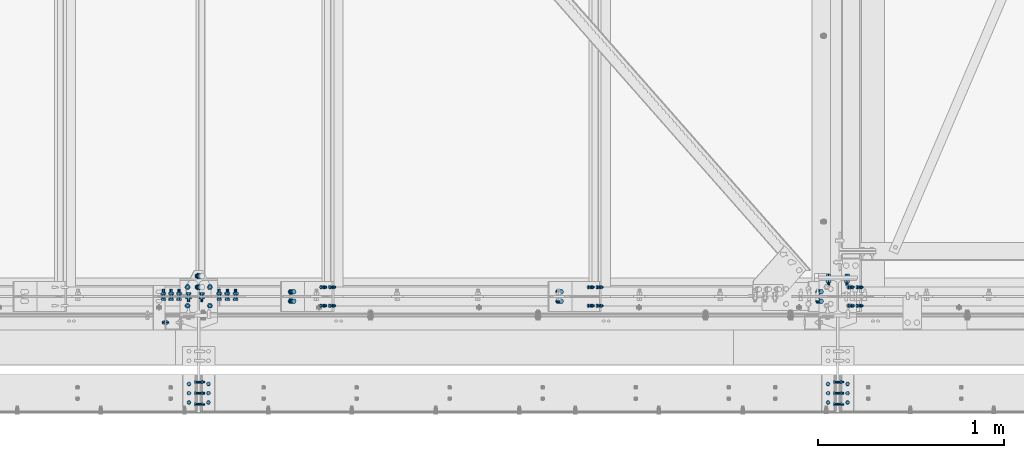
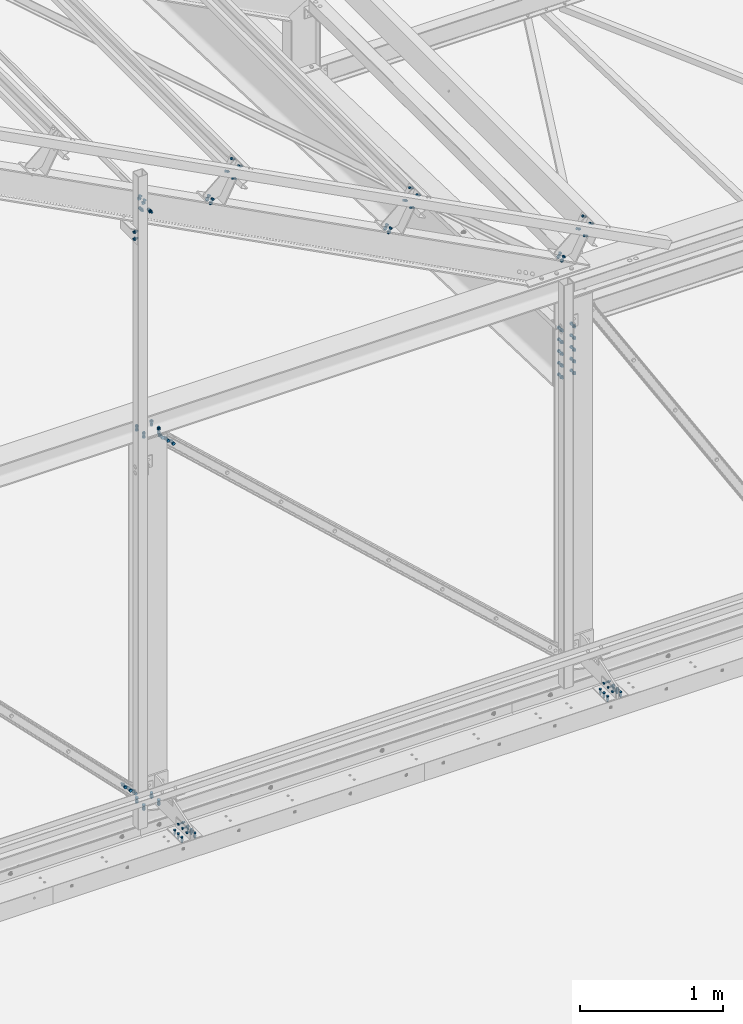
# One storey, part 159 of 362: 21 mechanical fasteners.
"""IFC2X3 building model written with IfcOpenShell, lengths in millimetres."""

from ifc_helpers import new_model, si_unit, frame, frame_2d, origin_with_axes, origin_2d_with_axis, place, context, subcontext, project, spatial, polyline, circle_curve, parameter, trimmed, segment, composite_curve, circle, outline, extrude, source, transform, mapped, material, type_object, element, save


model = new_model("IFC2X3")

# Units and contexts
model_context = context("Model", 3, precision=1e-05, world=origin_with_axes())
body_context = subcontext(model_context, "Body", "Model", "MODEL_VIEW")
ifc_project = project(units=[si_unit("LENGTHUNIT", "METRE", prefix="MILLI"), si_unit("AREAUNIT", "SQUARE_METRE"), si_unit("VOLUMEUNIT", "CUBIC_METRE"), si_unit("MASSUNIT", "GRAM", prefix="KILO"), si_unit("TIMEUNIT", "SECOND"), si_unit("PLANEANGLEUNIT", "RADIAN"), si_unit("SOLIDANGLEUNIT", "STERADIAN"), si_unit("THERMODYNAMICTEMPERATUREUNIT", "DEGREE_CELSIUS"), si_unit("LUMINOUSINTENSITYUNIT", "LUMEN")], contexts=[model_context])

# Site, building, storey
site_placement = place(None, origin_with_axes())
site = spatial("IfcSite", under=ifc_project, at=site_placement, Name="Undefined", CompositionType="ELEMENT")
building_placement = place(site_placement, origin_with_axes())
building = spatial("IfcBuilding", under=site, at=building_placement, Name="Undefined", CompositionType="ELEMENT")
storey_placement = place(building_placement, origin_with_axes())
storey = spatial("IfcBuildingStorey", under=building, at=storey_placement, Name="Undefined", CompositionType="ELEMENT", Elevation=0.0)

# Mechanical fasteners
ifc_material_1 = material(Name="8.8-SB-ZINGUE")
mechanical_fastener_type = type_object("IfcMechanicalFastenerType", Name="Bolt assembly")
shared_shape_1 = source(origin_with_axes(), body_context, "Body", "SweptSolid", [
    extrude(circle(Radius=7.0, at=origin_2d_with_axis()), frame((0.0, -0.100011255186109, 0.0), z_axis=(0.0, 1.0, 0.0), x_axis=(1.0, 0.0, 0.0)), (0.0, 0.0, 1.0), 3.1),
    extrude(circle(Radius=7.0, at=origin_2d_with_axis()), frame((0.0, -9.9, 0.0), z_axis=(0.0, 1.0, 0.0), x_axis=(1.0, 0.0, 0.0)), (0.0, 0.0, 1.0), 10.0),
    extrude(outline(polyline([(10.39230484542, 0.0), (5.19615242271, 9.00000000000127), (-5.19615242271, 9.00000000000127), (-10.39230484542, 0.0), (-5.19615242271, -9.00000000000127), (5.19615242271, -9.00000000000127), (10.39230484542, 0.0)])), frame((0.0, -17.92, 0.0), z_axis=(0.0, 1.0, 0.0), x_axis=(1.0, 0.0, 0.0)), (0.0, 0.0, 1.0), 7.92),
    extrude(circle(Radius=6.0, at=origin_2d_with_axis()), frame((0.0, -10.0000010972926, 0.0), z_axis=(0.0, 1.0, 0.0), x_axis=(1.0, 0.0, 0.0)), (0.0, 0.0, 1.0), 30.0),
    extrude(outline(polyline([(11.5008173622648, 0.0), (5.7504086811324, 9.96000000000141), (-5.7504086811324, 9.96000000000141), (-11.5008173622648, 0.0), (-5.7504086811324, -9.96000000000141), (5.7504086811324, -9.96000000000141), (11.5008173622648, 0.0)])), frame((0.0, 3.00000067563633, 0.0), z_axis=(0.0, 1.0, 0.0), x_axis=(1.0, 0.0, 0.0)), (0.0, 0.0, 1.0), 7.92),
])
mechanical_fastener_1_placement = place(storey_placement, frame((19619.8617049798, 49.9999403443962, 8812.09852695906), z_axis=(0.0, 1.0, 0.0), x_axis=(0.463528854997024, 6.99999093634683e-09, 0.886081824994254)))
element("IfcMechanicalFastener", 1, at=mechanical_fastener_1_placement, inside=storey, type_object=mechanical_fastener_type, material=ifc_material_1, Name="Bolt assembly", NominalDiameter=12.0, NominalLength=30.0, context=body_context, shape_type="MappedRepresentation", body=[
    mapped(shared_shape_1, transform((0.0, 0.0, 0.0))),
    mapped(shared_shape_1, transform((102.00000000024, -2.51020537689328e-10, 0.0))),
])
mechanical_fastener_2_placement = place(storey_placement, frame((19620.3252333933, -49.9999403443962, 8812.98460901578), z_axis=(0.0, 1.0, 0.0), x_axis=(0.463528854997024, 6.99999093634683e-09, 0.886081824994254)))
element("IfcMechanicalFastener", 2, at=mechanical_fastener_2_placement, inside=storey, type_object=mechanical_fastener_type, material=ifc_material_1, Name="Bolt assembly", NominalDiameter=12.0, NominalLength=30.0, context=body_context, shape_type="MappedRepresentation", body=[
    mapped(shared_shape_1, transform((0.0, 0.0, 0.0))),
    mapped(shared_shape_1, transform((99.9999999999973, -1.63709046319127e-11, 7.73070496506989e-12))),
])
shared_shape_2 = source(origin_with_axes(), body_context, "Body", "SweptSolid", [
    extrude(circle(Radius=7.0, at=origin_2d_with_axis()), frame((0.0, -7.5, 0.0), z_axis=(0.0, 1.0, 0.0), x_axis=(1.0, 0.0, 0.0)), (0.0, 0.0, 1.0), 15.0),
    extrude(circle(Radius=7.0, at=origin_2d_with_axis()), frame((0.0, -15.4, 0.0), z_axis=(0.0, 1.0, 0.0), x_axis=(1.0, 0.0, 0.0)), (0.0, 0.0, 1.0), 8.0),
    extrude(circle(Radius=7.0, at=origin_2d_with_axis()), frame((0.0, 7.39216762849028, 0.0), z_axis=(0.0, 1.0, 0.0), x_axis=(1.0, 0.0, 0.0)), (0.0, 0.0, 1.0), 8.1),
    extrude(outline(polyline([(10.39230484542, 0.0), (5.19615242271, 9.00000000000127), (-5.19615242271, 9.00000000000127), (-10.39230484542, 0.0), (-5.19615242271, -9.00000000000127), (5.19615242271, -9.00000000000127), (10.39230484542, 0.0)])), frame((0.0, -23.42, 0.0), z_axis=(0.0, 1.0, 0.0), x_axis=(1.0, 0.0, 0.0)), (0.0, 0.0, 1.0), 7.92),
    extrude(circle(Radius=6.0, at=origin_2d_with_axis()), frame((0.0, -15.5, 0.0), z_axis=(0.0, 1.0, 0.0), x_axis=(1.0, 0.0, 0.0)), (0.0, 0.0, 1.0), 50.0),
    extrude(outline(polyline([(11.5008173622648, 0.0), (5.7504086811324, 9.96000000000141), (-5.7504086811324, 9.96000000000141), (-11.5008173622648, 0.0), (-5.7504086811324, -9.96000000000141), (5.7504086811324, -9.96000000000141), (11.5008173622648, 0.0)])), frame((0.0, 15.4921676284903, 0.0), z_axis=(0.0, 1.0, 0.0), x_axis=(1.0, 0.0, 0.0)), (0.0, 0.0, 1.0), 7.92),
])
for number, where, z_axis, x_axis, name in (
    (3, (19550.0, -520.0, 5274.99824538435), (0.0, -1.0, 0.0), (0.0, 0.0, -1.0), "Bolt assembly"),
    (4, (16114.9985840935, -520.0, 5274.99824538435), (0.0, -1.0, 0.0), (0.0, 0.0, -1.0), "Bolt assembly"),
):
    element("IfcMechanicalFastener", number, at=place(storey_placement, frame(where, z_axis=z_axis, x_axis=x_axis)), inside=storey, type_object=mechanical_fastener_type, material=ifc_material_1, Name=name, NominalDiameter=12.0, NominalLength=50.0, context=body_context, shape_type="MappedRepresentation", body=[
        mapped(shared_shape_2, transform((0.0, 0.0, -60.0))),
        mapped(shared_shape_2, transform((0.0, 0.0, 0.0))),
        mapped(shared_shape_2, transform((0.0, 0.0, 60.0))),
    ])
shared_shape_3 = source(origin_with_axes(), body_context, "Body", "SweptSolid", [
    extrude(circle(Radius=7.0, at=origin_2d_with_axis()), frame((0.0, -0.100011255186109, 0.0), z_axis=(0.0, 1.0, 0.0), x_axis=(1.0, 0.0, 0.0)), (0.0, 0.0, 1.0), 8.6),
    extrude(circle(Radius=7.0, at=origin_2d_with_axis()), frame((0.0, -7.9, 0.0), z_axis=(0.0, 1.0, 0.0), x_axis=(1.0, 0.0, 0.0)), (0.0, 0.0, 1.0), 8.0),
    extrude(outline(polyline([(10.39230484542, 0.0), (5.19615242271, 9.00000000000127), (-5.19615242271, 9.00000000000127), (-10.39230484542, 0.0), (-5.19615242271, -9.00000000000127), (5.19615242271, -9.00000000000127), (10.39230484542, 0.0)])), frame((0.0, -15.92, 0.0), z_axis=(0.0, 1.0, 0.0), x_axis=(1.0, 0.0, 0.0)), (0.0, 0.0, 1.0), 7.92),
    extrude(circle(Radius=6.0, at=origin_2d_with_axis()), frame((0.0, -8.0, 0.0), z_axis=(0.0, 1.0, 0.0), x_axis=(1.0, 0.0, 0.0)), (0.0, 0.0, 1.0), 40.0),
    extrude(outline(polyline([(11.5008173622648, 0.0), (5.7504086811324, 9.96000000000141), (-5.7504086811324, 9.96000000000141), (-11.5008173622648, 0.0), (-5.7504086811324, -9.96000000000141), (5.7504086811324, -9.96000000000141), (11.5008173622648, 0.0)])), frame((0.0, 8.49999994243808, 0.0), z_axis=(0.0, 1.0, 0.0), x_axis=(1.0, 0.0, 0.0)), (0.0, 0.0, 1.0), 7.92),
])
for number, where, z_axis, x_axis, name in (
    (5, (19602.4921676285, -520.0, 5229.99824532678), (0.0, -1.0, 0.0), (-1.0, 0.0, 0.0), "Bolt assembly"),
    (6, (19497.5, -520.0, 5229.99824532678), (0.0, 1.0, 0.0), (1.0, 0.0, 0.0), "Bolt assembly"),
    (7, (16062.4985840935, -520.0, 5229.99824532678), (0.0, 1.0, 0.0), (1.0, 0.0, 0.0), "Bolt assembly"),
    (8, (16167.490751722, -520.0, 5229.99824532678), (0.0, -1.0, 0.0), (-1.0, 0.0, 0.0), "Bolt assembly"),
):
    element("IfcMechanicalFastener", number, at=place(storey_placement, frame(where, z_axis=z_axis, x_axis=x_axis)), inside=storey, type_object=mechanical_fastener_type, material=ifc_material_1, Name=name, NominalDiameter=12.0, NominalLength=40.0, context=body_context, shape_type="MappedRepresentation", body=[
        mapped(shared_shape_3, transform((0.0, 0.0, -50.0))),
        mapped(shared_shape_3, transform((0.0, 0.0, 0.0))),
        mapped(shared_shape_3, transform((0.0, 0.0, 50.0))),
    ])
shared_shape_4 = source(origin_with_axes(), body_context, "Body", "SweptSolid", [
    extrude(circle(Radius=7.0, at=origin_2d_with_axis()), frame((0.0, -0.100011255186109, 0.0), z_axis=(0.0, 1.0, 0.0), x_axis=(1.0, 0.0, 0.0)), (0.0, 0.0, 1.0), 4.1),
    extrude(outline(composite_curve([segment(polyline([(-10.5, 7.0), (10.5, 7.0)]), True, "CONTINUOUS"), segment(trimmed(circle_curve(frame_2d((10.5, 0.0), x_axis=(0.0, 1.0)), 7.0), [parameter(0.0)], [parameter(3.14159265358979)], False, "PARAMETER"), True, "CONTINUOUS"), segment(polyline([(10.5, -7.0), (-10.5, -7.0)]), True, "CONTINUOUS"), segment(trimmed(circle_curve(frame_2d((-10.5, 0.0), x_axis=(0.0, -1.0)), 7.0), [parameter(0.0)], [parameter(3.14159265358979)], False, "PARAMETER"), True, "DISCONTINUOUS")], self_intersect=False)), frame((0.0, -4.90000000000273, 0.0), z_axis=(0.0, 1.0, 0.0), x_axis=(1.0, 0.0, 0.0)), (0.0, 0.0, 1.0), 5.0),
    extrude(outline(polyline([(10.39230484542, 0.0), (5.19615242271, 9.00000000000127), (-5.19615242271, 9.00000000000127), (-10.39230484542, 0.0), (-5.19615242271, -9.00000000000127), (5.19615242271, -9.00000000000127), (10.39230484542, 0.0)])), frame((0.0, -16.8799999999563, 0.0), z_axis=(0.0, 1.0, 0.0), x_axis=(1.0, 0.0, 0.0)), (0.0, 0.0, 1.0), 7.92),
    extrude(circle(Radius=6.0, at=origin_2d_with_axis()), frame((0.0, -8.95999999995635, 0.0), z_axis=(0.0, 1.0, 0.0), x_axis=(1.0, 0.0, 0.0)), (0.0, 0.0, 1.0), 30.0),
    extrude(circle(Radius=10.8, at=origin_2d_with_axis()), frame((0.0, -8.95999999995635, 0.0), z_axis=(0.0, 1.0, 0.0), x_axis=(1.0, 0.0, 0.0)), (0.0, 0.0, 1.0), 3.96),
    extrude(outline(polyline([(11.5008173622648, 0.0), (5.7504086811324, 9.96000000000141), (-5.7504086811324, 9.96000000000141), (-11.5008173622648, 0.0), (-5.7504086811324, -9.96000000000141), (5.7504086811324, -9.96000000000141), (11.5008173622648, 0.0)])), frame((0.0, 4.00000005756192, 0.0), z_axis=(0.0, 1.0, 0.0), x_axis=(1.0, 0.0, 0.0)), (0.0, 0.0, 1.0), 7.92),
])
mechanical_fastener_3_placement = place(storey_placement, frame((15934.9998811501, -139.999999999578, 10133.0031228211), z_axis=(0.0, 1.0, 0.0), x_axis=(0.0, 0.0, 1.0)))
element("IfcMechanicalFastener", 9, at=mechanical_fastener_3_placement, inside=storey, type_object=mechanical_fastener_type, material=ifc_material_1, Name="Bolt assembly", NominalDiameter=12.0, NominalLength=30.0, context=body_context, shape_type="MappedRepresentation", body=[
    mapped(shared_shape_4, transform((0.0, 0.0, 0.0))),
    mapped(shared_shape_4, transform((60.0, 0.0, 0.0))),
])
shared_shape_5 = source(origin_with_axes(), body_context, "Body", "SweptSolid", [
    extrude(circle(Radius=9.0, at=origin_2d_with_axis()), frame((0.0, -10.9000000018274, 0.0), z_axis=(0.0, 1.0, 0.0), x_axis=(1.0, 0.0, 0.0)), (0.0, 0.0, 1.0), 6.0),
    extrude(circle(Radius=9.0, at=origin_2d_with_axis()), frame((0.0, 4.9000000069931, 0.0), z_axis=(0.0, 1.0, 0.0), x_axis=(1.0, 0.0, 0.0)), (0.0, 0.0, 1.0), 6.1),
    extrude(circle(Radius=9.0, at=origin_2d_with_axis()), frame((0.0, -3.99999923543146, 0.0), z_axis=(0.0, 1.0, 0.0), x_axis=(1.0, 0.0, 0.0)), (0.0, 0.0, 1.0), 8.0),
    extrude(outline(polyline([(13.85640646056, 0.0), (6.92820323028, 12.0000000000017), (-6.92820323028, 12.0000000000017), (-13.85640646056, 0.0), (-6.92820323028, -12.0000000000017), (6.92820323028, -12.0000000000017), (13.85640646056, 0.0)])), frame((0.0, -21.5600000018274, 0.0), z_axis=(0.0, 1.0, 0.0), x_axis=(1.0, 0.0, 0.0)), (0.0, 0.0, 1.0), 10.56),
    extrude(circle(Radius=8.0, at=origin_2d_with_axis()), frame((0.0, -11.0000000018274, 0.0), z_axis=(0.0, 1.0, 0.0), x_axis=(1.0, 0.0, 0.0)), (0.0, 0.0, 1.0), 50.0),
    extrude(outline(polyline([(15.3344231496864, 0.0), (7.6672115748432, 13.2800000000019), (-7.6672115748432, 13.2800000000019), (-15.3344231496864, 0.0), (-7.6672115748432, -13.2800000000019), (7.6672115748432, -13.2800000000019), (15.3344231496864, 0.0)])), frame((0.0, 11.0000000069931, 0.0), z_axis=(0.0, 1.0, 0.0), x_axis=(1.0, 0.0, 0.0)), (0.0, 0.0, 1.0), 10.56),
])
for number, where, z_axis, x_axis, name in (
    (10, (16225.2326805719, 0.0, 8258.27065316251), (0.67819104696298, 0.0, 0.73488563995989), (0.73488563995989, 0.0, -0.67819104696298), "Bolt assembly"),
    (11, (16009.2596121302, 0.0, 5296.6583257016), (-0.711050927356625, 0.0, -0.703140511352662), (-0.703140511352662, 0.0, 0.711050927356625), "Bolt assembly"),
):
    element("IfcMechanicalFastener", number, at=place(storey_placement, frame(where, z_axis=z_axis, x_axis=x_axis)), inside=storey, type_object=mechanical_fastener_type, material=ifc_material_1, Name=name, NominalDiameter=16.0, NominalLength=50.0, context=body_context, shape_type="MappedRepresentation", body=[
        mapped(shared_shape_5, transform((0.0, 0.0, 0.0))),
        mapped(shared_shape_5, transform((60.0, 0.0, 0.0))),
        mapped(shared_shape_5, transform((120.0, 0.0, 0.0))),
    ])
shared_shape_6 = source(origin_with_axes(), body_context, "Body", "SweptSolid", [
    extrude(circle(Radius=9.0, at=origin_2d_with_axis()), frame((0.0, -0.100011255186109, 0.0), z_axis=(0.0, 1.0, 0.0), x_axis=(1.0, 0.0, 0.0)), (0.0, 0.0, 1.0), 10.1),
    extrude(circle(Radius=9.0, at=origin_2d_with_axis()), frame((0.0, -14.899999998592, 0.0), z_axis=(0.0, 1.0, 0.0), x_axis=(1.0, 0.0, 0.0)), (0.0, 0.0, 1.0), 15.0),
    extrude(outline(polyline([(13.85640646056, 0.0), (6.92820323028, 12.0000000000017), (-6.92820323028, 12.0000000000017), (-13.85640646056, 0.0), (-6.92820323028, -12.0000000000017), (6.92820323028, -12.0000000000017), (13.85640646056, 0.0)])), frame((0.0, -25.56, 0.0), z_axis=(0.0, 1.0, 0.0), x_axis=(1.0, 0.0, 0.0)), (0.0, 0.0, 1.0), 10.56),
    extrude(circle(Radius=8.0, at=origin_2d_with_axis()), frame((0.0, -14.999999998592, 0.0), z_axis=(0.0, 1.0, 0.0), x_axis=(1.0, 0.0, 0.0)), (0.0, 0.0, 1.0), 50.0),
    extrude(outline(polyline([(15.3344231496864, 0.0), (7.6672115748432, 13.2800000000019), (-7.6672115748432, 13.2800000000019), (-15.3344231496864, 0.0), (-7.6672115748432, -13.2800000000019), (7.6672115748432, -13.2800000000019), (15.3344231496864, 0.0)])), frame((0.0, 10.0000000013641, 0.0), z_axis=(0.0, 1.0, 0.0), x_axis=(1.0, 0.0, 0.0)), (0.0, 0.0, 1.0), 10.56),
])
mechanical_fastener_4_placement = place(storey_placement, frame((19550.0, 95.0, 7971.54311074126), z_axis=(-1.0, 0.0, 0.0), x_axis=(0.0, 0.0, -1.0)))
element("IfcMechanicalFastener", 12, at=mechanical_fastener_4_placement, inside=storey, type_object=mechanical_fastener_type, material=ifc_material_1, Name="Bolt assembly", NominalDiameter=16.0, NominalLength=50.0, context=body_context, shape_type="MappedRepresentation", body=[
    mapped(shared_shape_6, transform((0.0, 0.0, -50.0))),
    mapped(shared_shape_6, transform((100.0, 0.0, -50.0))),
    mapped(shared_shape_6, transform((200.0, 0.0, -50.0))),
    mapped(shared_shape_6, transform((300.0, 0.0, -50.0))),
    mapped(shared_shape_6, transform((400.0, 0.0, -50.0))),
    mapped(shared_shape_6, transform((0.0, 0.0, 50.0))),
    mapped(shared_shape_6, transform((100.0, 0.0, 50.0))),
    mapped(shared_shape_6, transform((200.0, 0.0, 50.0))),
    mapped(shared_shape_6, transform((300.0, 0.0, 50.0))),
    mapped(shared_shape_6, transform((400.0, 0.0, 50.0))),
])
shared_shape_7 = source(origin_with_axes(), body_context, "Body", "SweptSolid", [
    extrude(circle(Radius=7.0, at=origin_2d_with_axis()), frame((0.0, -0.100011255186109, 0.0), z_axis=(0.0, 1.0, 0.0), x_axis=(1.0, 0.0, 0.0)), (0.0, 0.0, 1.0), 1.6),
    extrude(circle(Radius=7.0, at=origin_2d_with_axis()), frame((0.0, -9.9, 0.0), z_axis=(0.0, 1.0, 0.0), x_axis=(1.0, 0.0, 0.0)), (0.0, 0.0, 1.0), 10.0),
    extrude(outline(polyline([(10.39230484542, 0.0), (5.19615242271, 9.00000000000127), (-5.19615242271, 9.00000000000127), (-10.39230484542, 0.0), (-5.19615242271, -9.00000000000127), (5.19615242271, -9.00000000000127), (10.39230484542, 0.0)])), frame((0.0, -17.92, 0.0), z_axis=(0.0, 1.0, 0.0), x_axis=(1.0, 0.0, 0.0)), (0.0, 0.0, 1.0), 7.92),
    extrude(circle(Radius=6.0, at=origin_2d_with_axis()), frame((0.0, -10.0000010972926, 0.0), z_axis=(0.0, 1.0, 0.0), x_axis=(1.0, 0.0, 0.0)), (0.0, 0.0, 1.0), 30.0),
    extrude(outline(polyline([(11.5008173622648, 0.0), (5.7504086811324, 9.96000000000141), (-5.7504086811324, 9.96000000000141), (-11.5008173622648, 0.0), (-5.7504086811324, -9.96000000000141), (5.7504086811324, -9.96000000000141), (11.5008173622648, 0.0)])), frame((0.0, 1.50001896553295, 0.0), z_axis=(0.0, 1.0, 0.0), x_axis=(1.0, 0.0, 0.0)), (0.0, 0.0, 1.0), 7.92),
])
for number, where, z_axis, x_axis, name in (
    (13, (18222.435375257, 5.9655603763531e-05, 9543.12202798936), (0.0, 1.0, 0.0), (0.463528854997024, 6.99999093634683e-09, 0.886081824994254), "Bolt assembly"),
    (14, (16785.1353099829, 5.9655603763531e-05, 10295.0043300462), (0.0, 1.0, 0.0), (0.463528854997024, 6.99999093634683e-09, 0.886081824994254), "Bolt assembly"),
):
    element("IfcMechanicalFastener", number, at=place(storey_placement, frame(where, z_axis=z_axis, x_axis=x_axis)), inside=storey, type_object=mechanical_fastener_type, material=ifc_material_1, Name=name, NominalDiameter=12.0, NominalLength=30.0, context=body_context, shape_type="MappedRepresentation", body=[
        mapped(shared_shape_7, transform((0.0, 0.0, -50.0))),
        mapped(shared_shape_7, transform((102.00000000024, -2.51020537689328e-10, -50.0))),
        mapped(shared_shape_7, transform((0.0, 0.0, 50.0))),
        mapped(shared_shape_7, transform((102.00000000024, -2.51020537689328e-10, 50.0))),
    ])
shared_shape_8 = source(origin_with_axes(), body_context, "Body", "SweptSolid", [
    extrude(circle(Radius=9.0, at=origin_2d_with_axis()), frame((0.0, -0.0999426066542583, 0.0), z_axis=(0.0, 1.0, 0.0), x_axis=(1.0, 0.0, 0.0)), (0.0, 0.0, 1.0), 9.9),
    extrude(circle(Radius=9.0, at=origin_2d_with_axis()), frame((0.0, -9.9, 0.0), z_axis=(0.0, 1.0, 0.0), x_axis=(1.0, 0.0, 0.0)), (0.0, 0.0, 1.0), 10.0),
    extrude(outline(polyline([(13.85640646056, 0.0), (6.92820323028, 12.0000000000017), (-6.92820323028, 12.0000000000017), (-13.85640646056, 0.0), (-6.92820323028, -12.0000000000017), (6.92820323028, -12.0000000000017), (13.85640646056, 0.0)])), frame((0.0, -20.5600000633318, 0.0), z_axis=(0.0, 1.0, 0.0), x_axis=(1.0, 0.0, 0.0)), (0.0, 0.0, 1.0), 10.56),
    extrude(circle(Radius=8.0, at=origin_2d_with_axis()), frame((0.0, -10.0000010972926, 0.0), z_axis=(0.0, 1.0, 0.0), x_axis=(1.0, 0.0, 0.0)), (0.0, 0.0, 1.0), 40.0),
    extrude(outline(polyline([(15.3344231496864, 0.0), (7.6672115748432, 13.2800000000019), (-7.6672115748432, 13.2800000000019), (-15.3344231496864, 0.0), (-7.6672115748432, -13.2800000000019), (7.6672115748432, -13.2800000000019), (15.3344231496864, 0.0)])), frame((0.0, 9.80008147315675, 0.0), z_axis=(0.0, 1.0, 0.0), x_axis=(1.0, 0.0, 0.0)), (0.0, 0.0, 1.0), 10.56),
])
mechanical_fastener_5_placement = place(storey_placement, frame((16617.3712831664, 3.75141407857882e-05, 10146.8954622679), z_axis=(0.0, 1.0, 0.0), x_axis=(0.886081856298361, 3.500000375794e-08, -0.463528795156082)))
element("IfcMechanicalFastener", 15, at=mechanical_fastener_5_placement, inside=storey, type_object=mechanical_fastener_type, material=ifc_material_1, Name="Bolt assembly", NominalDiameter=16.0, NominalLength=40.0, context=body_context, shape_type="MappedRepresentation", body=[
    mapped(shared_shape_8, transform((0.0, 0.0, -25.0))),
    mapped(shared_shape_8, transform((0.0, 0.0, 25.0))),
])
shared_shape_9 = source(origin_with_axes(), body_context, "Body", "SweptSolid", [
    extrude(circle(Radius=9.0, at=origin_2d_with_axis()), frame((0.0, -0.0998569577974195, 0.0), z_axis=(0.0, 1.0, 0.0), x_axis=(1.0, 0.0, 0.0)), (0.0, 0.0, 1.0), 9.9),
    extrude(circle(Radius=9.0, at=origin_2d_with_axis()), frame((0.0, -9.9, 0.0), z_axis=(0.0, 1.0, 0.0), x_axis=(1.0, 0.0, 0.0)), (0.0, 0.0, 1.0), 10.0),
    extrude(outline(polyline([(13.85640646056, 0.0), (6.92820323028, 12.0000000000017), (-6.92820323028, 12.0000000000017), (-13.85640646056, 0.0), (-6.92820323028, -12.0000000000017), (6.92820323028, -12.0000000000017), (13.85640646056, 0.0)])), frame((0.0, -20.5600000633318, 0.0), z_axis=(0.0, 1.0, 0.0), x_axis=(1.0, 0.0, 0.0)), (0.0, 0.0, 1.0), 10.56),
    extrude(circle(Radius=8.0, at=origin_2d_with_axis()), frame((0.0, -10.0000010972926, 0.0), z_axis=(0.0, 1.0, 0.0), x_axis=(1.0, 0.0, 0.0)), (0.0, 0.0, 1.0), 40.0),
    extrude(outline(polyline([(15.3344231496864, 0.0), (7.6672115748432, 13.2800000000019), (-7.6672115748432, 13.2800000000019), (-15.3344231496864, 0.0), (-7.6672115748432, -13.2800000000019), (7.6672115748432, -13.2800000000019), (15.3344231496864, 0.0)])), frame((0.0, 9.80017144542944, 0.0), z_axis=(0.0, 1.0, 0.0), x_axis=(1.0, 0.0, 0.0)), (0.0, 0.0, 1.0), 10.56),
])
mechanical_fastener_6_placement = place(storey_placement, frame((18054.6713484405, 3.75141407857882e-05, 9395.01316021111), z_axis=(0.0, 1.0, 0.0), x_axis=(0.886081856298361, 3.500000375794e-08, -0.463528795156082)))
element("IfcMechanicalFastener", 16, at=mechanical_fastener_6_placement, inside=storey, type_object=mechanical_fastener_type, material=ifc_material_1, Name="Bolt assembly", NominalDiameter=16.0, NominalLength=40.0, context=body_context, shape_type="MappedRepresentation", body=[
    mapped(shared_shape_9, transform((0.0, 0.0, -25.0))),
    mapped(shared_shape_9, transform((0.0, 0.0, 25.0))),
])
shared_shape_10 = source(origin_with_axes(), body_context, "Body", "SweptSolid", [
    extrude(circle(Radius=9.0, at=origin_2d_with_axis()), frame((0.0, -0.0997388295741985, 0.0), z_axis=(0.0, 1.0, 0.0), x_axis=(1.0, 0.0, 0.0)), (0.0, 0.0, 1.0), 9.9),
    extrude(circle(Radius=9.0, at=origin_2d_with_axis()), frame((0.0, -9.9, 0.0), z_axis=(0.0, 1.0, 0.0), x_axis=(1.0, 0.0, 0.0)), (0.0, 0.0, 1.0), 10.0),
    extrude(outline(polyline([(13.85640646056, 0.0), (6.92820323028, 12.0000000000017), (-6.92820323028, 12.0000000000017), (-13.85640646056, 0.0), (-6.92820323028, -12.0000000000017), (6.92820323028, -12.0000000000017), (13.85640646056, 0.0)])), frame((0.0, -20.5600000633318, 0.0), z_axis=(0.0, 1.0, 0.0), x_axis=(1.0, 0.0, 0.0)), (0.0, 0.0, 1.0), 10.56),
    extrude(circle(Radius=8.0, at=origin_2d_with_axis()), frame((0.0, -10.0000010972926, 0.0), z_axis=(0.0, 1.0, 0.0), x_axis=(1.0, 0.0, 0.0)), (0.0, 0.0, 1.0), 40.0),
    extrude(outline(polyline([(15.3344231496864, 0.0), (7.6672115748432, 13.2800000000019), (-7.6672115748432, 13.2800000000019), (-15.3344231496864, 0.0), (-7.6672115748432, -13.2800000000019), (7.6672115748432, -13.2800000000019), (15.3344231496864, 0.0)])), frame((0.0, 9.80025892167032, 0.0), z_axis=(0.0, 1.0, 0.0), x_axis=(1.0, 0.0, 0.0)), (0.0, 0.0, 1.0), 10.56),
])
mechanical_fastener_7_placement = place(storey_placement, frame((19452.0976781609, 3.75141407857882e-05, 8663.98965918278), z_axis=(0.0, 1.0, 0.0), x_axis=(0.886081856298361, 3.500000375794e-08, -0.463528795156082)))
element("IfcMechanicalFastener", 17, at=mechanical_fastener_7_placement, inside=storey, type_object=mechanical_fastener_type, material=ifc_material_1, Name="Bolt assembly", NominalDiameter=16.0, NominalLength=40.0, context=body_context, shape_type="MappedRepresentation", body=[
    mapped(shared_shape_10, transform((0.0, 0.0, -25.0))),
    mapped(shared_shape_10, transform((0.0, 0.0, 25.0))),
])
ifc_material_2 = material(Name="#_SB-8.8-ZINGUE")
shared_shape_11 = source(origin_with_axes(), body_context, "Body", "SweptSolid", [
    extrude(circle(Radius=9.0, at=origin_2d_with_axis()), frame((0.0, -3.89991628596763, 0.0), z_axis=(0.0, 1.0, 0.0), x_axis=(1.0, 0.0, 0.0)), (0.0, 0.0, 1.0), 4.0),
    extrude(circle(Radius=9.0, at=origin_2d_with_axis()), frame((0.0, -0.10007666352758, 0.0), z_axis=(0.0, 1.0, 0.0), x_axis=(1.0, 0.0, 0.0)), (0.0, 0.0, 1.0), 6.1),
    extrude(outline(polyline([(13.85640646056, 0.0), (6.92820323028, 12.0000000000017), (-6.92820323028, 12.0000000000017), (-13.85640646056, 0.0), (-6.92820323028, -12.0000000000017), (6.92820323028, -12.0000000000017), (13.85640646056, 0.0)])), frame((0.0, -14.55994727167, 0.0), z_axis=(0.0, 1.0, 0.0), x_axis=(1.0, 0.0, 0.0)), (0.0, 0.0, 1.0), 10.56),
    extrude(circle(Radius=8.0, at=origin_2d_with_axis()), frame((0.0, -3.99991628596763, 0.0), z_axis=(0.0, 1.0, 0.0), x_axis=(1.0, 0.0, 0.0)), (0.0, 0.0, 1.0), 30.0),
    extrude(outline(polyline([(15.3344231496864, 0.0), (7.6672115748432, 13.2800000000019), (-7.6672115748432, 13.2800000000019), (-15.3344231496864, 0.0), (-7.6672115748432, -13.2800000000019), (7.6672115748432, -13.2800000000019), (15.3344231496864, 0.0)])), frame((0.0, 6.0, 0.0), z_axis=(0.0, 1.0, 0.0), x_axis=(1.0, 0.0, 0.0)), (0.0, 0.0, 1.0), 10.56),
])
mechanical_fastener_8_placement = place(storey_placement, frame((16115.0000362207, 50.00010306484, 10274.2689597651), z_axis=(-0.886081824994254, 0.0, 0.463528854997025), x_axis=(0.0, 1.0, 0.0)))
element("IfcMechanicalFastener", 18, at=mechanical_fastener_8_placement, inside=storey, type_object=mechanical_fastener_type, material=ifc_material_2, Name="Bolt assembly", NominalDiameter=16.0, NominalLength=30.0, context=body_context, shape_type="MappedRepresentation", body=[
    mapped(shared_shape_11, transform((0.0, 0.0, 0.0))),
    mapped(shared_shape_11, transform((60.0, 0.0, 0.0))),
])
shared_shape_12 = source(origin_with_axes(), body_context, "Body", "SweptSolid", [
    extrude(circle(Radius=9.0, at=origin_2d_with_axis()), frame((0.0, -3.19995229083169, 0.0), z_axis=(0.0, 1.0, 0.0), x_axis=(1.0, 0.0, 0.0)), (0.0, 0.0, 1.0), 6.3),
    extrude(circle(Radius=9.0, at=origin_2d_with_axis()), frame((0.0, -9.40005437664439, 0.0), z_axis=(0.0, 1.0, 0.0), x_axis=(1.0, 0.0, 0.0)), (0.0, 0.0, 1.0), 6.0),
    extrude(outline(polyline([(13.85640646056, 0.0), (6.92820323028, 12.0000000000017), (-6.92820323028, 12.0000000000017), (-13.85640646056, 0.0), (-6.92820323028, -12.0000000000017), (6.92820323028, -12.0000000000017), (13.85640646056, 0.0)])), frame((0.0, -20.0600543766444, 0.0), z_axis=(0.0, 1.0, 0.0), x_axis=(1.0, 0.0, 0.0)), (0.0, 0.0, 1.0), 10.56),
    extrude(circle(Radius=8.0, at=origin_2d_with_axis()), frame((0.0, -9.50005437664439, 0.0), z_axis=(0.0, 1.0, 0.0), x_axis=(1.0, 0.0, 0.0)), (0.0, 0.0, 1.0), 40.0),
    extrude(outline(polyline([(15.3344231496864, 0.0), (7.6672115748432, 13.2800000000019), (-7.6672115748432, 13.2800000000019), (-15.3344231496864, 0.0), (-7.6672115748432, -13.2800000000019), (7.6672115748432, -13.2800000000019), (15.3344231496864, 0.0)])), frame((0.0, 3.10004751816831, 0.0), z_axis=(0.0, 1.0, 0.0), x_axis=(1.0, 0.0, 0.0)), (0.0, 0.0, 1.0), 10.56),
])
mechanical_fastener_9_placement = place(storey_placement, frame((16095.9920115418, 4.81304614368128e-05, 10237.9413157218), z_axis=(0.886081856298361, 3.500000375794e-08, -0.463528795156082), x_axis=(0.463528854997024, 6.99999093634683e-09, 0.886081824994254)))
element("IfcMechanicalFastener", 19, at=mechanical_fastener_9_placement, inside=storey, type_object=mechanical_fastener_type, material=ifc_material_2, Name="Bolt assembly", NominalDiameter=16.0, NominalLength=40.0, context=body_context, shape_type="MappedRepresentation", body=[
    mapped(shared_shape_12, transform((0.0, 0.0, -40.0))),
    mapped(shared_shape_12, transform((0.0, 0.0, 40.0))),
])
shared_shape_13 = source(origin_with_axes(), body_context, "Body", "SweptSolid", [
    extrude(circle(Radius=9.0, at=origin_2d_with_axis()), frame((0.0, -0.100011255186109, 0.0), z_axis=(0.0, 1.0, 0.0), x_axis=(1.0, 0.0, 0.0)), (0.0, 0.0, 1.0), 10.1),
    extrude(circle(Radius=9.0, at=origin_2d_with_axis()), frame((0.0, -9.9, 0.0), z_axis=(0.0, 1.0, 0.0), x_axis=(1.0, 0.0, 0.0)), (0.0, 0.0, 1.0), 10.0),
    extrude(outline(polyline([(13.85640646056, 0.0), (6.92820323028, 12.0000000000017), (-6.92820323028, 12.0000000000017), (-13.85640646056, 0.0), (-6.92820323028, -12.0000000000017), (6.92820323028, -12.0000000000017), (13.85640646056, 0.0)])), frame((0.0, -20.5600000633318, 0.0), z_axis=(0.0, 1.0, 0.0), x_axis=(1.0, 0.0, 0.0)), (0.0, 0.0, 1.0), 10.56),
    extrude(circle(Radius=8.0, at=origin_2d_with_axis()), frame((0.0, -10.0000010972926, 0.0), z_axis=(0.0, 1.0, 0.0), x_axis=(1.0, 0.0, 0.0)), (0.0, 0.0, 1.0), 40.0),
    extrude(outline(polyline([(15.3344231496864, 0.0), (7.6672115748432, 13.2800000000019), (-7.6672115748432, 13.2800000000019), (-15.3344231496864, 0.0), (-7.6672115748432, -13.2800000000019), (7.6672115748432, -13.2800000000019), (15.3344231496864, 0.0)])), frame((0.0, 10.0000000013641, 0.0), z_axis=(0.0, 1.0, 0.0), x_axis=(1.0, 0.0, 0.0)), (0.0, 0.0, 1.0), 10.56),
])
mechanical_fastener_10_placement = place(storey_placement, frame((16175.0000000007, 0.0, 5190.00068570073), z_axis=(0.0, -1.0, 0.0), x_axis=(-1.0, 0.0, 0.0)))
element("IfcMechanicalFastener", 20, at=mechanical_fastener_10_placement, inside=storey, type_object=mechanical_fastener_type, material=ifc_material_1, Name="Bolt assembly", NominalDiameter=16.0, NominalLength=40.0, context=body_context, shape_type="MappedRepresentation", body=[
    mapped(shared_shape_13, transform((0.0, 0.0, -50.0))),
    mapped(shared_shape_13, transform((120.0, -4.36557456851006e-10, -50.0))),
    mapped(shared_shape_13, transform((0.0, 0.0, 50.0))),
    mapped(shared_shape_13, transform((120.0, -4.36557456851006e-10, 50.0))),
])
shared_shape_14 = source(origin_with_axes(), body_context, "Body", "SweptSolid", [
    extrude(circle(Radius=9.0, at=origin_2d_with_axis()), frame((0.0, -0.104186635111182, 0.0), z_axis=(0.0, 1.0, 0.0), x_axis=(1.0, 0.0, 0.0)), (0.0, 0.0, 1.0), 10.1),
    extrude(circle(Radius=9.0, at=origin_2d_with_axis()), frame((0.0, -9.9, 0.0), z_axis=(0.0, 1.0, 0.0), x_axis=(1.0, 0.0, 0.0)), (0.0, 0.0, 1.0), 10.0),
    extrude(outline(polyline([(13.85640646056, 0.0), (6.92820323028, 12.0000000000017), (-6.92820323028, 12.0000000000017), (-13.85640646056, 0.0), (-6.92820323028, -12.0000000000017), (6.92820323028, -12.0000000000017), (13.85640646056, 0.0)])), frame((0.0, -20.5600000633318, 0.0), z_axis=(0.0, 1.0, 0.0), x_axis=(1.0, 0.0, 0.0)), (0.0, 0.0, 1.0), 10.56),
    extrude(circle(Radius=8.0, at=origin_2d_with_axis()), frame((0.0, -10.0000010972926, 0.0), z_axis=(0.0, 1.0, 0.0), x_axis=(1.0, 0.0, 0.0)), (0.0, 0.0, 1.0), 40.0),
    extrude(outline(polyline([(15.3344231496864, 0.0), (7.6672115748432, 13.2800000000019), (-7.6672115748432, 13.2800000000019), (-15.3344231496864, 0.0), (-7.6672115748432, -13.2800000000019), (7.6672115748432, -13.2800000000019), (15.3344231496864, 0.0)])), frame((0.0, 9.99581336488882, 0.0), z_axis=(0.0, 1.0, 0.0), x_axis=(1.0, 0.0, 0.0)), (0.0, 0.0, 1.0), 10.56),
])
mechanical_fastener_11_placement = place(storey_placement, frame((16175.0000005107, 0.0, 8359.99931429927), z_axis=(0.0, 1.0, 0.0), x_axis=(-1.0, 0.0, 0.0)))
element("IfcMechanicalFastener", 21, at=mechanical_fastener_11_placement, inside=storey, type_object=mechanical_fastener_type, material=ifc_material_1, Name="Bolt assembly", NominalDiameter=16.0, NominalLength=40.0, context=body_context, shape_type="MappedRepresentation", body=[
    mapped(shared_shape_14, transform((0.0, 0.0, -50.0))),
    mapped(shared_shape_14, transform((120.0, -4.36557456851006e-10, -50.0))),
    mapped(shared_shape_14, transform((0.0, 0.0, 50.0))),
    mapped(shared_shape_14, transform((120.0, -4.36557456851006e-10, 50.0))),
])

save(model, "model.ifc")
